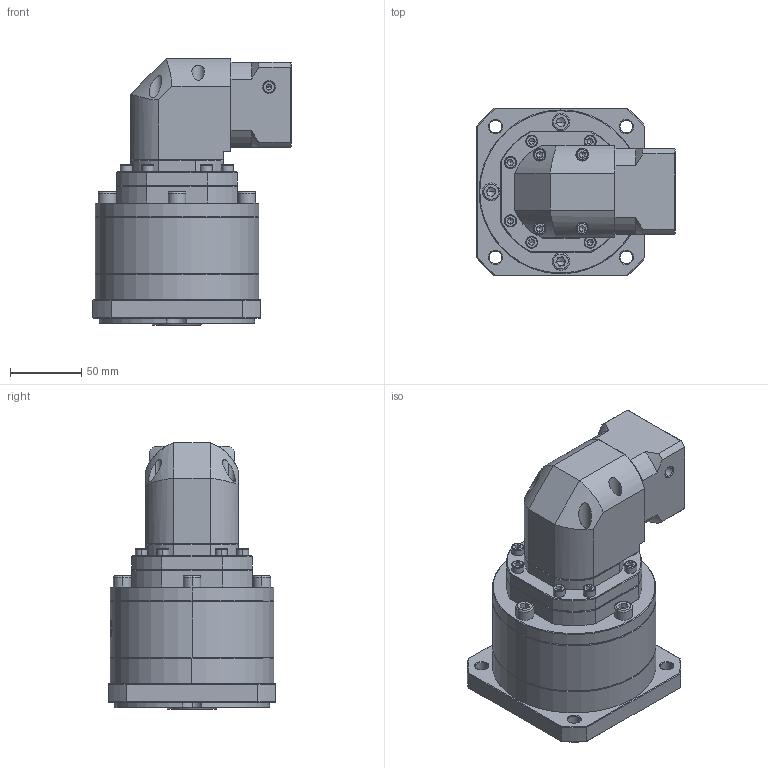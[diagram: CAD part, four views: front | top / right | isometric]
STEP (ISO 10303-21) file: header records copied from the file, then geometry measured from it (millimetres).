
FILE_DESCRIPTION (( 'STEP AP214' ), '1' );
FILE_NAME ('ZFR120A-K25-L3-P2-11-50-70-M4.step', '2023-08-27T09:50:45', ( '' ), ( '' ), 'SwSTEP 2.0', 'SolidWorks 2016', '' );
FILE_SCHEMA (( 'AUTOMOTIVE_DESIGN' ));
Length unit declared in the file: millimetre
Products named in the file (1): ZFR120A-K25-L3-P2-11-50-70-M4
Bounding box: 139.2 x 118 x 187.5 mm (x, y, z)
Volume: 1423348.9 mm3; surface area: 137110.2 mm2
Topology: 6 solids, 6 shells, 2371 faces, 6319 edges, 4064 vertices
Faces by surface type: plane 1165, bspline 426, cylinder 421, cone 339, torus 20
Entity records: 121579 total; most frequent: CARTESIAN_POINT 41552, ORIENTED_EDGE 12534, DIRECTION 9448, EDGE_CURVE 6267, VERTEX_POINT 4064, LINE 3346, VECTOR 3346, AXIS2_PLACEMENT_3D 3051
